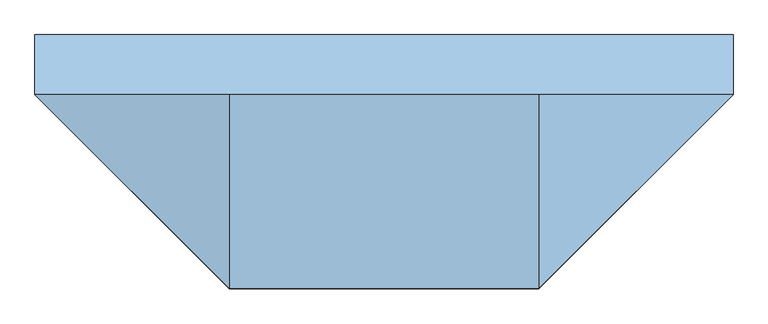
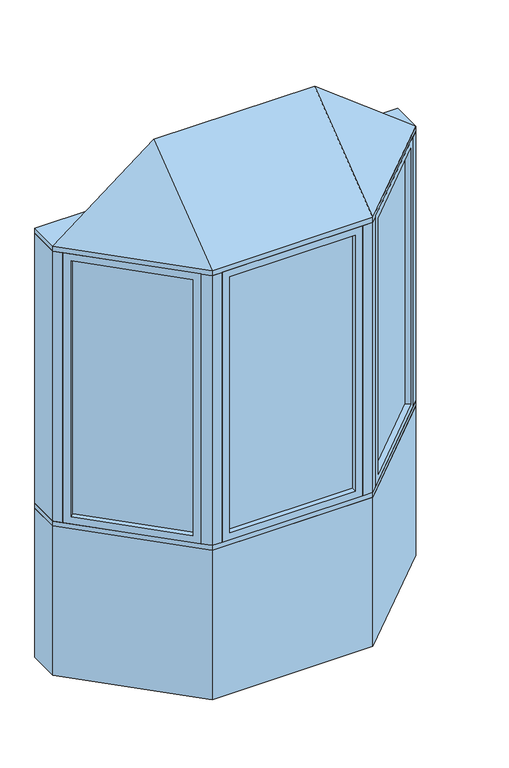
"""IFC4 building model written with IfcOpenShell, lengths in millimetres: window geometry, Pollard_Windows_Tudor Casement Bows and Bays : AML-BAY 45 AFR0514-08-600."""

from ifc_helpers import new_model, si_unit, frame, origin, origin_with_axes, place, context, project, spatial, polyline, outline, extrude, faceted_brep, source, transform, mapped, element, save


def window_b16b5d22(model_context):
    return source(origin(), model_context, "Body", "SolidModel", [
        extrude(outline(polyline([(824.0964271, -104.763169), (428.474814, -500.3847822), (424.8827115, -496.7926797), (820.5043247, -101.1710666), (824.0964271, -104.763169)])), frame((0.0, 0.0, 823.1628), z_axis=(0.0, 0.0, 1.0), x_axis=(1.0, 0.0, 0.0)), (0.0, 0.0, 1.0), 1353.6704),
        faceted_brep([(815.116171, -113.7434252, 835.8628), (833.0766833, -131.7039374, 835.8628), (833.0766833, -131.7039374, 2164.1332), (815.116171, -113.7434252, 2164.1332), (820.5043247, -101.1710666, 823.1628), (824.0964271, -104.763169, 823.1628), (824.0964271, -104.763169, 2176.8332), (820.5043247, -101.1710666, 2176.8332), (793.5635563, -92.1908105, 835.8628), (811.5240686, -110.1513227, 835.8628), (811.5240686, -110.1513227, 2164.1332), (793.5635563, -92.1908105, 2164.1332), (858.4369265, -106.3436941, 799.998), (818.9237996, -66.8305672, 799.998), (818.9237996, -66.8305672, 2199.998), (858.4369265, -106.3436941, 2199.998), (455.4155823, -509.3650383, 2164.1332), (437.4550701, -491.4045261, 2164.1332), (428.474814, -500.3847822, 2176.8332), (424.8827115, -496.7926797, 2176.8332), (433.8629677, -487.8124236, 2164.1332), (415.9024554, -469.8519114, 2164.1332), (390.5422121, -495.2121547, 2199.998), (430.0553391, -534.7252816, 2199.998), (455.4155823, -509.3650383, 835.8628), (437.4550701, -491.4045261, 835.8628), (428.474814, -500.3847822, 823.1628), (424.8827115, -496.7926797, 823.1628), (433.8629677, -487.8124236, 835.8628), (415.9024554, -469.8519114, 835.8628), (390.5422121, -495.2121547, 799.998), (430.0553391, -534.7252816, 799.998)], [[[0, 1, 2, 3]], [[4, 5, 6, 7]], [[8, 9, 10, 11]], [[12, 13, 14, 15]], [[3, 2, 16, 17]], [[7, 6, 18, 19]], [[11, 10, 20, 21]], [[15, 14, 22, 23]], [[17, 16, 24, 25]], [[19, 18, 26, 27]], [[21, 20, 28, 29]], [[23, 22, 30, 31]], [[25, 24, 1, 0]], [[5, 26, 18, 6], [3, 17, 25, 0]], [[27, 26, 5, 4]], [[7, 19, 27, 4], [9, 28, 20, 10]], [[29, 28, 9, 8]], [[13, 30, 22, 14], [11, 21, 29, 8]], [[31, 30, 13, 12]], [[15, 23, 31, 12], [1, 24, 16, 2]]]),
        extrude(outline(polyline([(-428.474814, -500.3847822), (-824.0964271, -104.763169), (-820.5043247, -101.1710666), (-424.8827115, -496.7926797), (-428.474814, -500.3847822)])), frame((0.0, 0.0, 823.1628), z_axis=(0.0, 0.0, 1.0), x_axis=(1.0, 0.0, 0.0)), (0.0, 0.0, 1.0), 1353.6704),
        faceted_brep([(-433.8629677, -487.8124236, 2164.1332), (-415.9024554, -469.8519114, 2164.1332), (-415.9024554, -469.8519114, 835.8628), (-433.8629677, -487.8124236, 835.8628), (-428.474814, -500.3847822, 2176.8332), (-424.8827115, -496.7926797, 2176.8332), (-424.8827115, -496.7926797, 823.1628), (-428.474814, -500.3847822, 823.1628), (-455.4155823, -509.3650383, 2164.1332), (-437.4550701, -491.4045261, 2164.1332), (-437.4550701, -491.4045261, 835.8628), (-455.4155823, -509.3650383, 835.8628), (-390.5422121, -495.2121547, 2199.998), (-430.0553391, -534.7252816, 2199.998), (-430.0553391, -534.7252816, 799.998), (-390.5422121, -495.2121547, 799.998), (-793.5635563, -92.1908105, 835.8628), (-811.5240686, -110.1513227, 835.8628), (-820.5043247, -101.1710666, 823.1628), (-824.0964271, -104.763169, 823.1628), (-815.116171, -113.7434252, 835.8628), (-833.0766833, -131.7039374, 835.8628), (-858.4369265, -106.3436941, 799.998), (-818.9237996, -66.8305672, 799.998), (-793.5635563, -92.1908105, 2164.1332), (-811.5240686, -110.1513227, 2164.1332), (-820.5043247, -101.1710666, 2176.8332), (-824.0964271, -104.763169, 2176.8332), (-815.116171, -113.7434252, 2164.1332), (-833.0766833, -131.7039374, 2164.1332), (-858.4369265, -106.3436941, 2199.998), (-818.9237996, -66.8305672, 2199.998)], [[[0, 1, 2, 3]], [[4, 5, 6, 7]], [[8, 9, 10, 11]], [[12, 13, 14, 15]], [[3, 2, 16, 17]], [[7, 6, 18, 19]], [[11, 10, 20, 21]], [[15, 14, 22, 23]], [[17, 16, 24, 25]], [[19, 18, 26, 27]], [[21, 20, 28, 29]], [[23, 22, 30, 31]], [[15, 23, 31, 12], [1, 24, 16, 2]], [[25, 24, 1, 0]], [[5, 26, 18, 6], [3, 17, 25, 0]], [[27, 26, 5, 4]], [[7, 19, 27, 4], [9, 28, 20, 10]], [[29, 28, 9, 8]], [[13, 30, 22, 14], [11, 21, 29, 8]], [[31, 30, 13, 12]]]),
        extrude(outline(polyline([(321.5352, -544.6806207), (-321.5352, -544.6806207), (-321.5352, -539.6006207), (321.5352, -539.6006207), (321.5352, -544.6806207)])), frame((0.0, 0.0, 823.1628), z_axis=(0.0, 0.0, 1.0), x_axis=(1.0, 0.0, 0.0)), (0.0, 0.0, 1.0), 1353.6704),
        faceted_brep([(308.8352, -544.6806207, 835.8628), (308.8352, -570.0806207, 835.8628), (308.8352, -570.0806207, 2164.1332), (308.8352, -544.6806207, 2164.1332), (321.5352, -539.6006207, 823.1628), (321.5352, -544.6806207, 823.1628), (321.5352, -544.6806207, 2176.8332), (321.5352, -539.6006207, 2176.8332), (308.8352, -514.2006207, 835.8628), (308.8352, -539.6006207, 835.8628), (308.8352, -539.6006207, 2164.1332), (308.8352, -514.2006207, 2164.1332), (344.7, -570.0806207, 799.998), (344.7, -514.2006207, 799.998), (344.7, -514.2006207, 2199.998), (344.7, -570.0806207, 2199.998), (-308.8352, -570.0806207, 2164.1332), (-308.8352, -544.6806207, 2164.1332), (-321.5352, -544.6806207, 2176.8332), (-321.5352, -539.6006207, 2176.8332), (-308.8352, -539.6006207, 2164.1332), (-308.8352, -514.2006207, 2164.1332), (-344.7, -514.2006207, 2199.998), (-344.7, -570.0806207, 2199.998), (-308.8352, -570.0806207, 835.8628), (-308.8352, -544.6806207, 835.8628), (-321.5352, -544.6806207, 823.1628), (-321.5352, -539.6006207, 823.1628), (-308.8352, -539.6006207, 835.8628), (-308.8352, -514.2006207, 835.8628), (-344.7, -514.2006207, 799.998), (-344.7, -570.0806207, 799.998)], [[[0, 1, 2, 3]], [[4, 5, 6, 7]], [[8, 9, 10, 11]], [[12, 13, 14, 15]], [[3, 2, 16, 17]], [[7, 6, 18, 19]], [[11, 10, 20, 21]], [[15, 14, 22, 23]], [[17, 16, 24, 25]], [[19, 18, 26, 27]], [[21, 20, 28, 29]], [[23, 22, 30, 31]], [[15, 23, 31, 12], [1, 24, 16, 2]], [[25, 24, 1, 0]], [[5, 26, 18, 6], [3, 17, 25, 0]], [[27, 26, 5, 4]], [[7, 19, 27, 4], [9, 28, 20, 10]], [[29, 28, 9, 8]], [[13, 30, 22, 14], [11, 21, 29, 8]], [[31, 30, 13, 12]]]),
        faceted_brep([(890.0, -74.7806207, 2225.398), (394.7, -570.0806207, 2225.398), (-394.7, -570.0806207, 2225.398), (-890.0, -74.7806207, 2225.398), (-394.7, -74.7806207, 2606.398), (394.7, -74.7806207, 2606.398)], [[[0, 1, 2, 3]], [[3, 2, 4]], [[2, 1, 5, 4]], [[1, 0, 5]], [[0, 3, 4, 5]]]),
        extrude(outline(polyline([(-890.0, 77.6193793), (890.0, 77.6193793), (890.0, -74.7806207), (394.7, -570.0806207), (-394.7, -570.0806207), (-890.0, -74.7806207), (-890.0, 77.6193793)])), frame((0.0, 0.0, 2199.998), z_axis=(0.0, 0.0, 1.0), x_axis=(1.0, 0.0, 0.0)), (0.0, 0.0, 1.0), 25.4),
        extrude(outline(polyline([(-890.0, -74.7806207), (-890.0, 77.6193793), (-826.8738531, 77.6193793), (-826.8738531, -74.7806207), (-858.4369265, -106.3436941), (-890.0, -74.7806207)])), frame((0.0, 0.0, 799.998), z_axis=(0.0, 0.0, 1.0), x_axis=(1.0, 0.0, 0.0)), (0.0, 0.0, 1.0), 1400.0),
        extrude(outline(polyline([(890.0, 77.6193793), (890.0, -74.7806207), (858.4369265, -106.3436941), (826.8738531, -74.7806207), (826.8738531, 77.6193793), (890.0, 77.6193793)])), frame((0.0, 0.0, 799.998), z_axis=(0.0, 0.0, 1.0), x_axis=(1.0, 0.0, 0.0)), (0.0, 0.0, 1.0), 1400.0),
        extrude(outline(polyline([(394.7, -570.0806207), (344.7, -570.0806207), (344.7, -520.0806207), (373.9893219, -520.0806207), (394.7, -499.3699425), (430.0553391, -534.7252816), (394.7, -570.0806207)])), frame((0.0, 0.0, 799.998), z_axis=(0.0, 0.0, 1.0), x_axis=(1.0, 0.0, 0.0)), (0.0, 0.0, 1.0), 1400.0),
        extrude(outline(polyline([(-394.7, -570.0806207), (-430.0553391, -534.7252816), (-394.7, -499.3699425), (-373.9893219, -520.0806207), (-344.7, -520.0806207), (-344.7, -570.0806207), (-394.7, -570.0806207)])), frame((0.0, 0.0, 799.998), z_axis=(0.0, 0.0, 1.0), x_axis=(1.0, 0.0, 0.0)), (0.0, 0.0, 1.0), 1400.0),
        extrude(outline(polyline([(-394.7, -570.0806207), (-890.0, -74.7806207), (-890.0, 77.6193793), (-826.8738531, 77.6193793), (-331.5738531, -417.6806207), (331.5738531, -417.6806207), (826.8738531, 77.6193793), (890.0, 77.6193793), (890.0, -74.7806207), (394.7, -570.0806207), (-394.7, -570.0806207)])), frame((0.0, 0.0, 774.598), z_axis=(0.0, 0.0, 1.0), x_axis=(1.0, 0.0, 0.0)), (0.0, 0.0, 1.0), 25.4),
        extrude(outline(polyline([(-890.0, -74.7806207), (-890.0, 77.6193793), (-826.8738531, 77.6193793), (-331.5738531, -417.6806207), (331.5738531, -417.6806207), (826.8738531, 77.6193793), (890.0, 77.6193793), (890.0, -74.7806207), (394.7, -570.0806207), (-394.7, -570.0806207), (-890.0, -74.7806207)])), origin_with_axes(), (0.0, 0.0, 1.0), 774.598),
    ])


if __name__ == "__main__":
    model = new_model("IFC4")
    model_context = context("Model", 3, world=origin())
    ifc_project = project(units=[si_unit("LENGTHUNIT", "METRE", prefix="MILLI")], contexts=[model_context])
    site = spatial("IfcSite", under=ifc_project)
    building = spatial("IfcBuilding", under=site)
    placement = place(None, origin())
    window_shape = window_b16b5d22(model_context)
    element("IfcWindow", 1, ObjectType="Pollard_Windows_Tudor Casement Bows and Bays : AML-BAY 45 AFR0514-08-600", at=placement, inside=building, context=model_context, shape_type="MappedRepresentation", body=[
        mapped(window_shape, transform((0.0, 0.0, 0.0), x_axis=(1.0, 0.0, 0.0), y_axis=(0.0, 1.0, 0.0), z_axis=(0.0, 0.0, 1.0))),
    ])
    save(model, "model.ifc")
